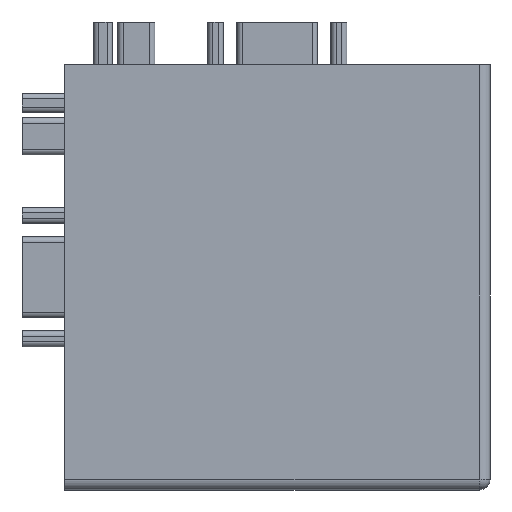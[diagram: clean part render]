
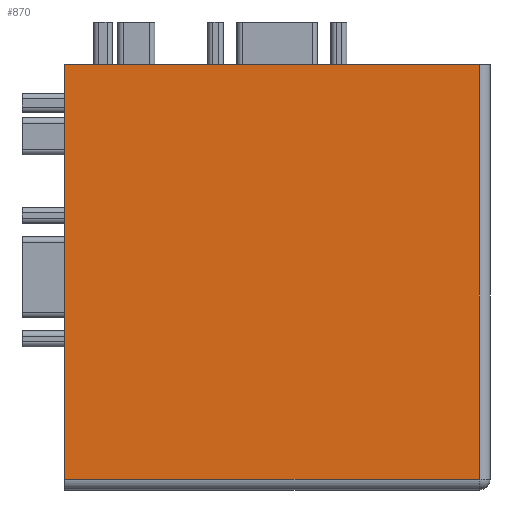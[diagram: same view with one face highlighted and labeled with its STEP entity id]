
A CAD part, left-side view. The second image highlights one B-rep face of the part: STEP entity #870.
In plain terms, the highlighted planar face has unit normal (-1, 0, 0).
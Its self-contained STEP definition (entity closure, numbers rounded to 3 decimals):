
#870 = ADVANCED_FACE ( 'NONE', ( #6364 ), #11180, .F. ) ;
#1679 = ORIENTED_EDGE ( 'NONE', *, *, #7142, .F. ) ;
#1947 = LINE ( 'NONE', #10591, #12271 ) ;
#2116 = CARTESIAN_POINT ( 'NONE',  ( -20., 2., -20. ) ) ;
#3006 = ORIENTED_EDGE ( 'NONE', *, *, #9997, .T. ) ;
#3176 = VECTOR ( 'NONE', #9330, 1000. ) ;
#3490 = LINE ( 'NONE', #11358, #3176 ) ;
#3547 = EDGE_LOOP ( 'NONE', ( #3685, #3006, #1679, #9463 ) ) ;
#3685 = ORIENTED_EDGE ( 'NONE', *, *, #5736, .T. ) ;
#3865 = CARTESIAN_POINT ( 'NONE',  ( -20., 1., -19. ) ) ;
#4485 = VERTEX_POINT ( 'NONE', #11362 ) ;
#4730 = AXIS2_PLACEMENT_3D ( 'NONE', #2116, #9104, #5163 ) ;
#4768 = CARTESIAN_POINT ( 'NONE',  ( -20., 40., -19. ) ) ;
#5129 = VERTEX_POINT ( 'NONE', #4768 ) ;
#5163 = DIRECTION ( 'NONE',  ( 0., 0., -1. ) ) ;
#5736 = EDGE_CURVE ( 'NONE', #5129, #7420, #1947, .T. ) ;
#6364 = FACE_OUTER_BOUND ( 'NONE', #3547, .T. ) ;
#6890 = VECTOR ( 'NONE', #11946, 1000. ) ;
#6958 = CARTESIAN_POINT ( 'NONE',  ( -20., 1., -20. ) ) ;
#7142 = EDGE_CURVE ( 'NONE', #4485, #9819, #3490, .T. ) ;
#7420 = VERTEX_POINT ( 'NONE', #3865 ) ;
#7842 = DIRECTION ( 'NONE',  ( 0., 0., 1. ) ) ;
#9104 = DIRECTION ( 'NONE',  ( 1., 0., 0. ) ) ;
#9330 = DIRECTION ( 'NONE',  ( 0., -1., 0. ) ) ;
#9463 = ORIENTED_EDGE ( 'NONE', *, *, #11426, .F. ) ;
#9480 = DIRECTION ( 'NONE',  ( 0., -1., 0. ) ) ;
#9819 = VERTEX_POINT ( 'NONE', #10410 ) ;
#9858 = LINE ( 'NONE', #6958, #6890 ) ;
#9997 = EDGE_CURVE ( 'NONE', #7420, #9819, #9858, .T. ) ;
#10410 = CARTESIAN_POINT ( 'NONE',  ( -20., 1., 20. ) ) ;
#10591 = CARTESIAN_POINT ( 'NONE',  ( -20., 2., -19. ) ) ;
#10831 = CARTESIAN_POINT ( 'NONE',  ( -20., 40., 0. ) ) ;
#10929 = VECTOR ( 'NONE', #7842, 1000. ) ;
#11180 = PLANE ( 'NONE',  #4730 ) ;
#11249 = LINE ( 'NONE', #10831, #10929 ) ;
#11358 = CARTESIAN_POINT ( 'NONE',  ( -20., 2., 20. ) ) ;
#11362 = CARTESIAN_POINT ( 'NONE',  ( -20., 40., 20. ) ) ;
#11426 = EDGE_CURVE ( 'NONE', #5129, #4485, #11249, .T. ) ;
#11946 = DIRECTION ( 'NONE',  ( 0., 0., 1. ) ) ;
#12271 = VECTOR ( 'NONE', #9480, 1000. ) ;
